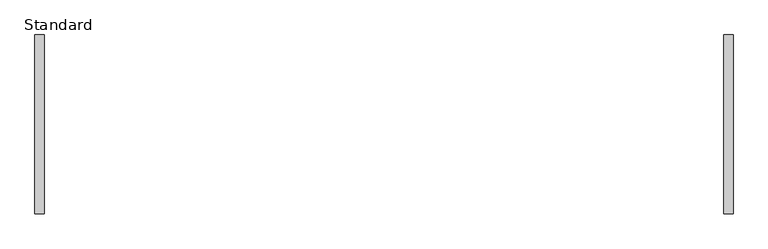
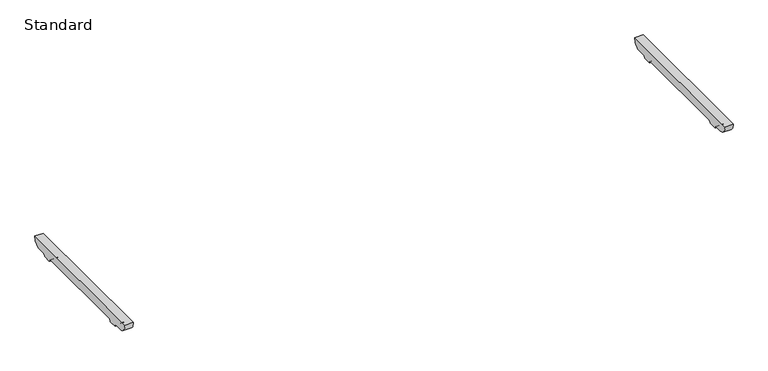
"""IFC4 building model written with IfcOpenShell, lengths in millimetres: furniture geometry, BDG_BossDesign_Tbls_AgentTables4Legs_Nested : Standard."""

from ifc_helpers import new_model, si_unit, point, frame, frame_2d, origin, place, context, project, spatial, polyline, circle_curve, trimmed, segment, composite_curve, outline, extrude, source, transform, mapped, element, save


def standard_9f9972de(model_context):
    return source(origin(), model_context, "Body", "SweptSolid", [
        extrude(outline(composite_curve([segment(polyline([(380.5450184, 672.0), (342.7000122, 672.0)]), True, "CONTINUOUS"), segment(trimmed(circle_curve(frame_2d((342.7000122, 660.0)), 12.0), [point((342.7000122, 672.0))], [point((330.7000122, 660.0))], True, "CARTESIAN"), True, "CONTINUOUS"), segment(polyline([(330.7000122, 660.0), (285.7000122, 660.0)]), True, "CONTINUOUS"), segment(trimmed(circle_curve(frame_2d((273.7000122, 660.0)), 12.0), [point((285.7000122, 660.0))], [point((273.7000122, 672.0))], True, "CARTESIAN"), True, "CONTINUOUS"), segment(polyline([(273.7000122, 672.0), (-273.7000122, 672.0)]), True, "CONTINUOUS"), segment(trimmed(circle_curve(frame_2d((-273.7000122, 660.0)), 12.0), [point((-273.7000122, 672.0))], [point((-285.7000122, 660.0))], True, "CARTESIAN"), True, "CONTINUOUS"), segment(polyline([(-285.7000122, 660.0), (-330.7000122, 660.0)]), True, "CONTINUOUS"), segment(trimmed(circle_curve(frame_2d((-342.7000122, 660.0)), 12.0), [point((-330.7000122, 660.0))], [point((-342.7000122, 672.0))], True, "CARTESIAN"), True, "CONTINUOUS"), segment(polyline([(-342.7000122, 672.0), (-380.5450184, 672.0)]), True, "CONTINUOUS"), segment(trimmed(circle_curve(frame_2d((-378.2220439, 716.5514119)), 44.6119324), [point((-380.5450184, 672.0))], [point((-422.5, 722.0))], False, "CARTESIAN"), True, "CONTINUOUS"), segment(polyline([(-422.5, 722.0), (422.5, 722.0)]), True, "CONTINUOUS"), segment(trimmed(circle_curve(frame_2d((378.2220439, 716.5514119)), 44.6119324), [point((422.5, 722.0))], [point((380.5450184, 672.0))], False, "CARTESIAN"), True, "CONTINUOUS")], self_intersect=False)), frame((1605.0, 0.0, 0.0), z_axis=(1.0, 0.0, 0.0), x_axis=(0.0, 1.0, 0.0)), (0.0, 0.0, 1.0), 45.0),
        extrude(outline(composite_curve([segment(polyline([(380.5450184, 672.0), (342.7000122, 672.0)]), True, "CONTINUOUS"), segment(trimmed(circle_curve(frame_2d((342.7000122, 660.0)), 12.0), [point((342.7000122, 672.0))], [point((330.7000122, 660.0))], True, "CARTESIAN"), True, "CONTINUOUS"), segment(polyline([(330.7000122, 660.0), (285.7000122, 660.0)]), True, "CONTINUOUS"), segment(trimmed(circle_curve(frame_2d((273.7000122, 660.0)), 12.0), [point((285.7000122, 660.0))], [point((273.7000122, 672.0))], True, "CARTESIAN"), True, "CONTINUOUS"), segment(polyline([(273.7000122, 672.0), (-273.7000122, 672.0)]), True, "CONTINUOUS"), segment(trimmed(circle_curve(frame_2d((-273.7000122, 660.0)), 12.0), [point((-273.7000122, 672.0))], [point((-285.7000122, 660.0))], True, "CARTESIAN"), True, "CONTINUOUS"), segment(polyline([(-285.7000122, 660.0), (-330.7000122, 660.0)]), True, "CONTINUOUS"), segment(trimmed(circle_curve(frame_2d((-342.7000122, 660.0)), 12.0), [point((-330.7000122, 660.0))], [point((-342.7000122, 672.0))], True, "CARTESIAN"), True, "CONTINUOUS"), segment(polyline([(-342.7000122, 672.0), (-380.5450184, 672.0)]), True, "CONTINUOUS"), segment(trimmed(circle_curve(frame_2d((-378.2220439, 716.5514119)), 44.6119324), [point((-380.5450184, 672.0))], [point((-422.5, 722.0))], False, "CARTESIAN"), True, "CONTINUOUS"), segment(polyline([(-422.5, 722.0), (422.5, 722.0)]), True, "CONTINUOUS"), segment(trimmed(circle_curve(frame_2d((378.2220439, 716.5514119)), 44.6119324), [point((422.5, 722.0))], [point((380.5450184, 672.0))], False, "CARTESIAN"), True, "CONTINUOUS")], self_intersect=False)), frame((-1650.0, 0.0, 0.0), z_axis=(1.0, 0.0, 0.0), x_axis=(0.0, 1.0, 0.0)), (0.0, 0.0, 1.0), 45.0),
    ])


if __name__ == "__main__":
    model = new_model("IFC4")
    model_context = context("Model", 3, world=origin())
    ifc_project = project(units=[si_unit("LENGTHUNIT", "METRE", prefix="MILLI")], contexts=[model_context])
    site = spatial("IfcSite", under=ifc_project)
    building = spatial("IfcBuilding", under=site)
    placement = place(None, origin())
    standard_shape = standard_9f9972de(model_context)
    element("IfcFurniture", 1, ObjectType="BDG_BossDesign_Tbls_AgentTables4Legs_Nested : Standard", at=placement, inside=building, context=model_context, shape_type="MappedRepresentation", body=[
        mapped(standard_shape, transform((0.0, 0.0, 0.0), x_axis=(1.0, 0.0, 0.0), y_axis=(0.0, 1.0, 0.0), z_axis=(0.0, 0.0, 1.0))),
    ])
    save(model, "model.ifc")
